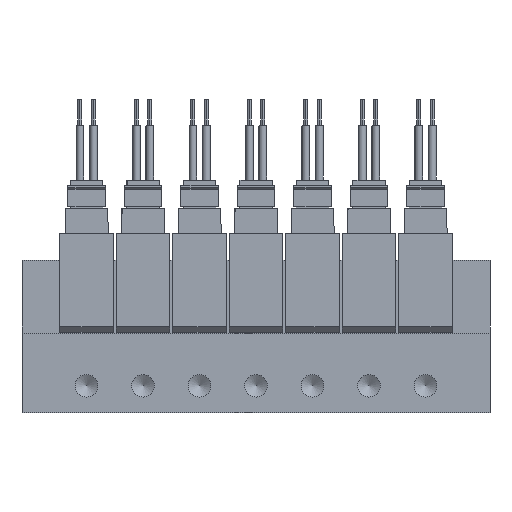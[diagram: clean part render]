
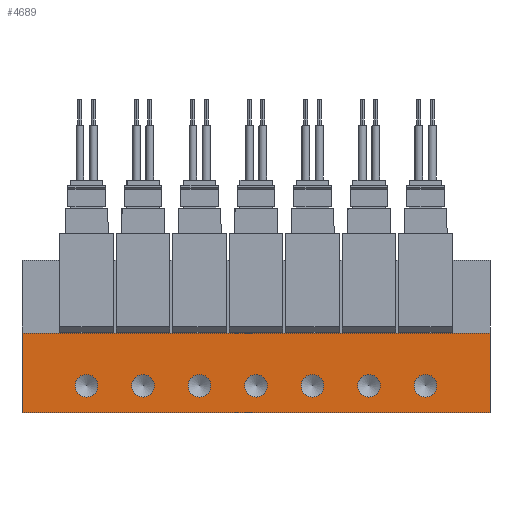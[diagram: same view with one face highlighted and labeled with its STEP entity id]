
A CAD part, front view. The second image highlights one B-rep face of the part: STEP entity #4689.
In plain terms, the highlighted planar face has unit normal (0, -1, 0).
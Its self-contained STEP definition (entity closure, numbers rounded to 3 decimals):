
#4689=ADVANCED_FACE('',(#7618,#7619,#7620,#7621,#7622,#7623,#7624,#7625),#7626,.F.);
#7618=FACE_BOUND('',#13703,.T.);
#7619=FACE_BOUND('',#13704,.T.);
#7620=FACE_BOUND('',#13705,.T.);
#7621=FACE_BOUND('',#13706,.T.);
#7622=FACE_BOUND('',#13707,.T.);
#7623=FACE_BOUND('',#13708,.T.);
#7624=FACE_BOUND('',#13709,.T.);
#7625=FACE_OUTER_BOUND('',#13710,.T.);
#7626=PLANE('',#13711);
#13703=EDGE_LOOP('',(#21356));
#13704=EDGE_LOOP('',(#21357));
#13705=EDGE_LOOP('',(#21358));
#13706=EDGE_LOOP('',(#21359));
#13707=EDGE_LOOP('',(#21360));
#13708=EDGE_LOOP('',(#21361));
#13709=EDGE_LOOP('',(#21362));
#13710=EDGE_LOOP('',(#21363,#21364,#21365,#21366));
#13711=AXIS2_PLACEMENT_3D('',#21367,#21368,#21369);
#21356=ORIENTED_EDGE('',*,*,#44681,.F.);
#21357=ORIENTED_EDGE('',*,*,#44707,.F.);
#21358=ORIENTED_EDGE('',*,*,#44708,.F.);
#21359=ORIENTED_EDGE('',*,*,#44709,.F.);
#21360=ORIENTED_EDGE('',*,*,#44710,.F.);
#21361=ORIENTED_EDGE('',*,*,#44711,.F.);
#21362=ORIENTED_EDGE('',*,*,#44712,.F.);
#21363=ORIENTED_EDGE('',*,*,#44713,.F.);
#21364=ORIENTED_EDGE('',*,*,#44714,.F.);
#21365=ORIENTED_EDGE('',*,*,#44715,.T.);
#21366=ORIENTED_EDGE('',*,*,#44705,.T.);
#21367=CARTESIAN_POINT('',(-87.0,0.,14.8));
#21368=DIRECTION('',(0.0,1.0,0.));
#21369=DIRECTION('',(0.0,0.,1.0));
#44681=EDGE_CURVE('',#52251,#52251,#52252,.T.);
#44705=EDGE_CURVE('',#52296,#52294,#52297,.T.);
#44707=EDGE_CURVE('',#52299,#52299,#52300,.T.);
#44708=EDGE_CURVE('',#52301,#52301,#52302,.T.);
#44709=EDGE_CURVE('',#52303,#52303,#52304,.T.);
#44710=EDGE_CURVE('',#52305,#52305,#52306,.T.);
#44711=EDGE_CURVE('',#52307,#52307,#52308,.T.);
#44712=EDGE_CURVE('',#52309,#52309,#52310,.T.);
#44713=EDGE_CURVE('',#52311,#52294,#52312,.T.);
#44714=EDGE_CURVE('',#52313,#52311,#52314,.T.);
#44715=EDGE_CURVE('',#52313,#52296,#52315,.T.);
#52251=VERTEX_POINT('',#65041);
#52252=CIRCLE('',#65042,2.1);
#52294=VERTEX_POINT('',#65097);
#52296=VERTEX_POINT('',#65100);
#52297=LINE('',#65101,#65102);
#52299=VERTEX_POINT('',#65105);
#52300=CIRCLE('',#65106,2.1);
#52301=VERTEX_POINT('',#65107);
#52302=CIRCLE('',#65108,2.1);
#52303=VERTEX_POINT('',#65109);
#52304=CIRCLE('',#65110,2.1);
#52305=VERTEX_POINT('',#65111);
#52306=CIRCLE('',#65112,2.1);
#52307=VERTEX_POINT('',#65113);
#52308=CIRCLE('',#65114,2.1);
#52309=VERTEX_POINT('',#65115);
#52310=CIRCLE('',#65116,2.1);
#52311=VERTEX_POINT('',#65117);
#52312=LINE('',#65118,#65119);
#52313=VERTEX_POINT('',#65120);
#52314=LINE('',#65121,#65122);
#52315=LINE('',#65123,#65124);
#65041=CARTESIAN_POINT('',(-75.0,0.,2.9));
#65042=AXIS2_PLACEMENT_3D('',#83412,#83413,#83414);
#65097=CARTESIAN_POINT('',(0.0,0.0,0.0));
#65100=CARTESIAN_POINT('',(-87.0,0.0,0.0));
#65101=CARTESIAN_POINT('',(-87.0,0.0,0.0));
#65102=VECTOR('',#83456,1.0);
#65105=CARTESIAN_POINT('',(-64.5,0.,2.9));
#65106=AXIS2_PLACEMENT_3D('',#83458,#83459,#83460);
#65107=CARTESIAN_POINT('',(-54.0,0.,2.9));
#65108=AXIS2_PLACEMENT_3D('',#83461,#83462,#83463);
#65109=CARTESIAN_POINT('',(-43.5,0.,2.9));
#65110=AXIS2_PLACEMENT_3D('',#83464,#83465,#83466);
#65111=CARTESIAN_POINT('',(-33.0,0.,2.9));
#65112=AXIS2_PLACEMENT_3D('',#83467,#83468,#83469);
#65113=CARTESIAN_POINT('',(-22.5,0.,2.9));
#65114=AXIS2_PLACEMENT_3D('',#83470,#83471,#83472);
#65115=CARTESIAN_POINT('',(-12.0,0.,2.9));
#65116=AXIS2_PLACEMENT_3D('',#83473,#83474,#83475);
#65117=CARTESIAN_POINT('',(0.0,0.,14.8));
#65118=CARTESIAN_POINT('',(0.0,0.,14.8));
#65119=VECTOR('',#83476,1.0);
#65120=CARTESIAN_POINT('',(-87.0,0.,14.8));
#65121=CARTESIAN_POINT('',(-87.0,0.,14.8));
#65122=VECTOR('',#83477,1.0);
#65123=CARTESIAN_POINT('',(-87.0,0.,14.8));
#65124=VECTOR('',#83478,1.0);
#83412=CARTESIAN_POINT('',(-75.0,0.0,5.0));
#83413=DIRECTION('',(0.0,-1.0,0.));
#83414=DIRECTION('',(0.0,0.,-1.0));
#83456=DIRECTION('',(1.0,0.0,0.0));
#83458=CARTESIAN_POINT('',(-64.5,0.0,5.0));
#83459=DIRECTION('',(0.0,-1.0,0.));
#83460=DIRECTION('',(0.0,0.,-1.0));
#83461=CARTESIAN_POINT('',(-54.0,0.0,5.0));
#83462=DIRECTION('',(0.0,-1.0,0.));
#83463=DIRECTION('',(0.0,0.,-1.0));
#83464=CARTESIAN_POINT('',(-43.5,0.0,5.0));
#83465=DIRECTION('',(0.0,-1.0,0.));
#83466=DIRECTION('',(0.0,0.,-1.0));
#83467=CARTESIAN_POINT('',(-33.0,0.0,5.0));
#83468=DIRECTION('',(0.0,-1.0,0.));
#83469=DIRECTION('',(0.0,0.,-1.0));
#83470=CARTESIAN_POINT('',(-22.5,0.0,5.0));
#83471=DIRECTION('',(0.0,-1.0,0.));
#83472=DIRECTION('',(0.0,0.,-1.0));
#83473=CARTESIAN_POINT('',(-12.0,0.0,5.0));
#83474=DIRECTION('',(0.0,-1.0,0.));
#83475=DIRECTION('',(0.0,0.,-1.0));
#83476=DIRECTION('',(0.0,0.,-1.0));
#83477=DIRECTION('',(1.0,0.0,0.0));
#83478=DIRECTION('',(0.0,0.,-1.0));
